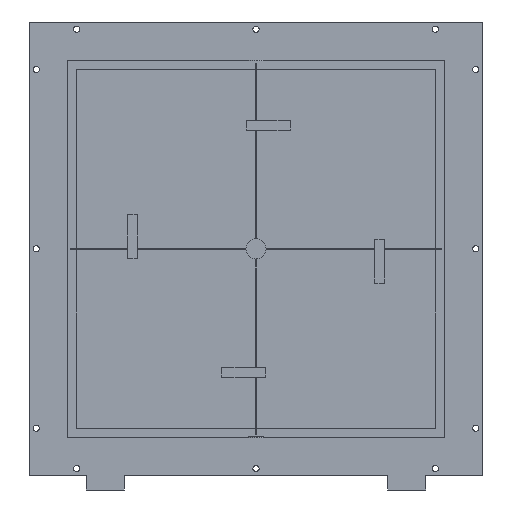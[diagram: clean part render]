
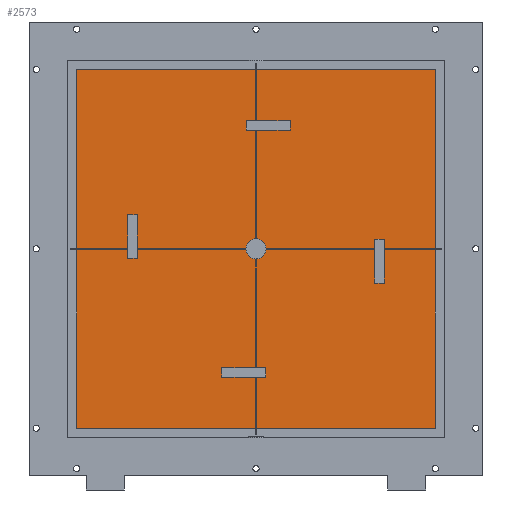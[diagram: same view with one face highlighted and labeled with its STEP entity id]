
A CAD part, front view. The second image highlights one B-rep face of the part: STEP entity #2573.
In plain terms, the highlighted planar face has unit normal (0, -1, 0).
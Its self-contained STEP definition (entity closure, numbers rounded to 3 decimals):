
#73=CARTESIAN_POINT('',(0.,74.75,0.));
#74=DIRECTION('',(0.,1.,0.));
#75=DIRECTION('',(0.,0.,1.));
#76=AXIS2_PLACEMENT_3D('',#73,#74,#75);
#78=CARTESIAN_POINT('',(0.,74.75,0.));
#79=DIRECTION('',(0.,1.,0.));
#80=DIRECTION('',(0.,0.,-1.));
#81=AXIS2_PLACEMENT_3D('',#78,#79,#80);
#83=DIRECTION('',(1.,0.,0.));
#84=VECTOR('',#83,20.);
#85=CARTESIAN_POINT('',(-270.,74.75,-20.));
#86=LINE('',#85,#84);
#87=DIRECTION('',(0.,0.,1.));
#88=VECTOR('',#87,92.);
#89=CARTESIAN_POINT('',(-250.,74.75,-20.));
#90=LINE('',#89,#88);
#91=DIRECTION('',(-1.,0.,0.));
#92=VECTOR('',#91,20.);
#93=CARTESIAN_POINT('',(-250.,74.75,72.));
#94=LINE('',#93,#92);
#95=DIRECTION('',(0.,0.,-1.));
#96=VECTOR('',#95,92.);
#97=CARTESIAN_POINT('',(-270.,74.75,72.));
#98=LINE('',#97,#96);
#99=DIRECTION('',(0.,0.,-1.));
#100=VECTOR('',#99,20.);
#101=CARTESIAN_POINT('',(-20.,74.75,270.));
#102=LINE('',#101,#100);
#103=DIRECTION('',(1.,0.,0.));
#104=VECTOR('',#103,92.);
#105=CARTESIAN_POINT('',(-20.,74.75,250.));
#106=LINE('',#105,#104);
#107=DIRECTION('',(0.,0.,1.));
#108=VECTOR('',#107,20.);
#109=CARTESIAN_POINT('',(72.,74.75,250.));
#110=LINE('',#109,#108);
#111=DIRECTION('',(-1.,0.,0.));
#112=VECTOR('',#111,92.);
#113=CARTESIAN_POINT('',(72.,74.75,270.));
#114=LINE('',#113,#112);
#115=DIRECTION('',(0.,0.,-1.));
#116=VECTOR('',#115,92.);
#117=CARTESIAN_POINT('',(250.,74.75,20.));
#118=LINE('',#117,#116);
#119=DIRECTION('',(1.,0.,0.));
#120=VECTOR('',#119,20.);
#121=CARTESIAN_POINT('',(250.,74.75,-72.));
#122=LINE('',#121,#120);
#123=DIRECTION('',(0.,0.,1.));
#124=VECTOR('',#123,92.);
#125=CARTESIAN_POINT('',(270.,74.75,-72.));
#126=LINE('',#125,#124);
#127=DIRECTION('',(-1.,0.,0.));
#128=VECTOR('',#127,20.);
#129=CARTESIAN_POINT('',(270.,74.75,20.));
#130=LINE('',#129,#128);
#131=DIRECTION('',(-1.,0.,0.));
#132=VECTOR('',#131,92.);
#133=CARTESIAN_POINT('',(20.,74.75,-250.));
#134=LINE('',#133,#132);
#135=DIRECTION('',(0.,0.,-1.));
#136=VECTOR('',#135,20.);
#137=CARTESIAN_POINT('',(-72.,74.75,-250.));
#138=LINE('',#137,#136);
#139=DIRECTION('',(1.,0.,0.));
#140=VECTOR('',#139,92.);
#141=CARTESIAN_POINT('',(-72.,74.75,-270.));
#142=LINE('',#141,#140);
#143=DIRECTION('',(0.,0.,1.));
#144=VECTOR('',#143,20.);
#145=CARTESIAN_POINT('',(20.,74.75,-270.));
#146=LINE('',#145,#144);
#147=DIRECTION('',(0.,0.,1.));
#148=VECTOR('',#147,836.);
#149=CARTESIAN_POINT('',(418.,74.75,-418.));
#150=LINE('',#149,#148);
#155=DIRECTION('',(-1.,0.,0.));
#156=VECTOR('',#155,836.);
#157=CARTESIAN_POINT('',(418.,74.75,418.));
#158=LINE('',#157,#156);
#163=DIRECTION('',(0.,0.,-1.));
#164=VECTOR('',#163,836.);
#165=CARTESIAN_POINT('',(-418.,74.75,418.));
#166=LINE('',#165,#164);
#171=DIRECTION('',(1.,0.,0.));
#172=VECTOR('',#171,836.);
#173=CARTESIAN_POINT('',(-418.,74.75,-418.));
#174=LINE('',#173,#172);
#2007=CARTESIAN_POINT('',(418.,74.75,-418.));
#2008=CARTESIAN_POINT('',(418.,74.75,418.));
#2009=VERTEX_POINT('',#2007);
#2010=VERTEX_POINT('',#2008);
#2011=CARTESIAN_POINT('',(-418.,74.75,-418.));
#2012=VERTEX_POINT('',#2011);
#2013=CARTESIAN_POINT('',(-418.,74.75,418.));
#2014=VERTEX_POINT('',#2013);
#2211=CARTESIAN_POINT('',(0.,74.75,21.2));
#2212=CARTESIAN_POINT('',(0.,74.75,-21.2));
#2213=VERTEX_POINT('',#2211);
#2214=VERTEX_POINT('',#2212);
#2249=CARTESIAN_POINT('',(-270.,74.75,-20.));
#2250=CARTESIAN_POINT('',(-250.,74.75,-20.));
#2251=VERTEX_POINT('',#2249);
#2252=VERTEX_POINT('',#2250);
#2253=CARTESIAN_POINT('',(-250.,74.75,72.));
#2254=VERTEX_POINT('',#2253);
#2255=CARTESIAN_POINT('',(-270.,74.75,72.));
#2256=VERTEX_POINT('',#2255);
#2257=CARTESIAN_POINT('',(-20.,74.75,270.));
#2258=CARTESIAN_POINT('',(-20.,74.75,250.));
#2259=VERTEX_POINT('',#2257);
#2260=VERTEX_POINT('',#2258);
#2261=CARTESIAN_POINT('',(72.,74.75,250.));
#2262=VERTEX_POINT('',#2261);
#2263=CARTESIAN_POINT('',(72.,74.75,270.));
#2264=VERTEX_POINT('',#2263);
#2265=CARTESIAN_POINT('',(250.,74.75,20.));
#2266=CARTESIAN_POINT('',(250.,74.75,-72.));
#2267=VERTEX_POINT('',#2265);
#2268=VERTEX_POINT('',#2266);
#2269=CARTESIAN_POINT('',(270.,74.75,-72.));
#2270=VERTEX_POINT('',#2269);
#2271=CARTESIAN_POINT('',(270.,74.75,20.));
#2272=VERTEX_POINT('',#2271);
#2273=CARTESIAN_POINT('',(20.,74.75,-250.));
#2274=CARTESIAN_POINT('',(-72.,74.75,-250.));
#2275=VERTEX_POINT('',#2273);
#2276=VERTEX_POINT('',#2274);
#2277=CARTESIAN_POINT('',(-72.,74.75,-270.));
#2278=VERTEX_POINT('',#2277);
#2279=CARTESIAN_POINT('',(20.,74.75,-270.));
#2280=VERTEX_POINT('',#2279);
#2513=CARTESIAN_POINT('',(0.,74.75,0.));
#2514=DIRECTION('',(0.,1.,0.));
#2515=DIRECTION('',(1.,0.,0.));
#2516=AXIS2_PLACEMENT_3D('',#2513,#2514,#2515);
#2517=PLANE('',#2516);
#2519=ORIENTED_EDGE('',*,*,#2518,.F.);
#2521=ORIENTED_EDGE('',*,*,#2520,.F.);
#2523=ORIENTED_EDGE('',*,*,#2522,.F.);
#2525=ORIENTED_EDGE('',*,*,#2524,.F.);
#2526=EDGE_LOOP('',(#2519,#2521,#2523,#2525));
#2527=FACE_OUTER_BOUND('',#2526,.F.);
#2529=ORIENTED_EDGE('',*,*,#2528,.F.);
#2531=ORIENTED_EDGE('',*,*,#2530,.F.);
#2532=EDGE_LOOP('',(#2529,#2531));
#2533=FACE_BOUND('',#2532,.F.);
#2535=ORIENTED_EDGE('',*,*,#2534,.T.);
#2537=ORIENTED_EDGE('',*,*,#2536,.T.);
#2539=ORIENTED_EDGE('',*,*,#2538,.T.);
#2541=ORIENTED_EDGE('',*,*,#2540,.T.);
#2542=EDGE_LOOP('',(#2535,#2537,#2539,#2541));
#2543=FACE_BOUND('',#2542,.F.);
#2545=ORIENTED_EDGE('',*,*,#2544,.T.);
#2546=ORIENTED_EDGE('',*,*,#2493,.T.);
#2548=ORIENTED_EDGE('',*,*,#2547,.T.);
#2550=ORIENTED_EDGE('',*,*,#2549,.T.);
#2551=EDGE_LOOP('',(#2545,#2546,#2548,#2550));
#2552=FACE_BOUND('',#2551,.F.);
#2554=ORIENTED_EDGE('',*,*,#2553,.T.);
#2556=ORIENTED_EDGE('',*,*,#2555,.T.);
#2558=ORIENTED_EDGE('',*,*,#2557,.T.);
#2560=ORIENTED_EDGE('',*,*,#2559,.T.);
#2561=EDGE_LOOP('',(#2554,#2556,#2558,#2560));
#2562=FACE_BOUND('',#2561,.F.);
#2564=ORIENTED_EDGE('',*,*,#2563,.T.);
#2566=ORIENTED_EDGE('',*,*,#2565,.T.);
#2568=ORIENTED_EDGE('',*,*,#2567,.T.);
#2570=ORIENTED_EDGE('',*,*,#2569,.T.);
#2571=EDGE_LOOP('',(#2564,#2566,#2568,#2570));
#2572=FACE_BOUND('',#2571,.F.);
#2573=ADVANCED_FACE('',(#2527,#2533,#2543,#2552,#2562,#2572),#2517,.F.);
#77=CIRCLE('',#76,21.2);
#82=CIRCLE('',#81,21.2);
#2493=EDGE_CURVE('',#2260,#2262,#106,.T.);
#2518=EDGE_CURVE('',#2009,#2010,#150,.T.);
#2520=EDGE_CURVE('',#2012,#2009,#174,.T.);
#2522=EDGE_CURVE('',#2014,#2012,#166,.T.);
#2524=EDGE_CURVE('',#2010,#2014,#158,.T.);
#2528=EDGE_CURVE('',#2213,#2214,#77,.T.);
#2530=EDGE_CURVE('',#2214,#2213,#82,.T.);
#2534=EDGE_CURVE('',#2251,#2252,#86,.T.);
#2536=EDGE_CURVE('',#2252,#2254,#90,.T.);
#2538=EDGE_CURVE('',#2254,#2256,#94,.T.);
#2540=EDGE_CURVE('',#2256,#2251,#98,.T.);
#2544=EDGE_CURVE('',#2259,#2260,#102,.T.);
#2547=EDGE_CURVE('',#2262,#2264,#110,.T.);
#2549=EDGE_CURVE('',#2264,#2259,#114,.T.);
#2553=EDGE_CURVE('',#2267,#2268,#118,.T.);
#2555=EDGE_CURVE('',#2268,#2270,#122,.T.);
#2557=EDGE_CURVE('',#2270,#2272,#126,.T.);
#2559=EDGE_CURVE('',#2272,#2267,#130,.T.);
#2563=EDGE_CURVE('',#2275,#2276,#134,.T.);
#2565=EDGE_CURVE('',#2276,#2278,#138,.T.);
#2567=EDGE_CURVE('',#2278,#2280,#142,.T.);
#2569=EDGE_CURVE('',#2280,#2275,#146,.T.);
